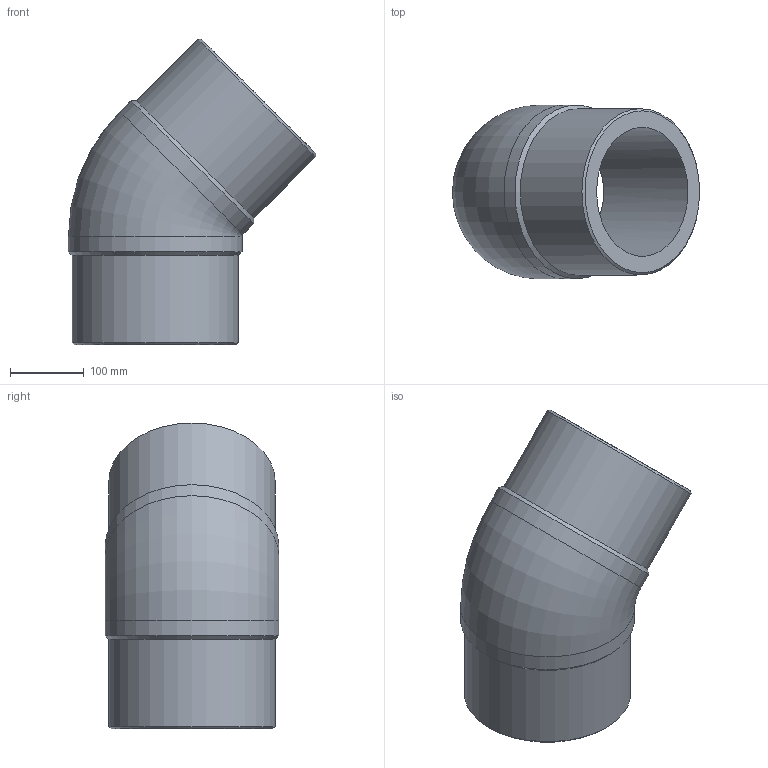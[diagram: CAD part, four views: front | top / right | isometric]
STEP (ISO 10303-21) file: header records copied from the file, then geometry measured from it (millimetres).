
FILE_DESCRIPTION(/* description */ ('Unknown'),/* implementation_level */ '2;1');
FILE_NAME(/* name */ 'G4P225G',/* time_stamp */ '2022-01-20T17:25:32+01:00',/* author */ ('Unknown'),/* organization */ ('Unknown'),/* preprocessor_version */ 'ST-DEVELOPER v18.1',/* originating_system */ 'Solid Edge',/* authorisation */ 'Unknown');
FILE_SCHEMA (('AUTOMOTIVE_DESIGN {1 0 10303 214 3 1 1}'));
Length unit declared in the file: millimetre
Products named in the file (1): G4P225G
Bounding box: 334.23 x 235 x 413.73 mm (x, y, z)
Volume: 6667565.4 mm3; surface area: 524816.6 mm2
Topology: 1 solids, 1 shells, 14 faces, 34 edges, 22 vertices
Faces by surface type: cylinder 6, cone 4, plane 2, torus 2
Full cylindrical faces by diameter (mm): 174.6 x2, 225 x2, 235 x2
Entity records: 370 total; most frequent: CARTESIAN_POINT 70, DIRECTION 60, ORIENTED_EDGE 38, AXIS2_PLACEMENT_3D 30, EDGE_LOOP 27, FACE_BOUND 27, EDGE_CURVE 19, VERTEX_POINT 18
